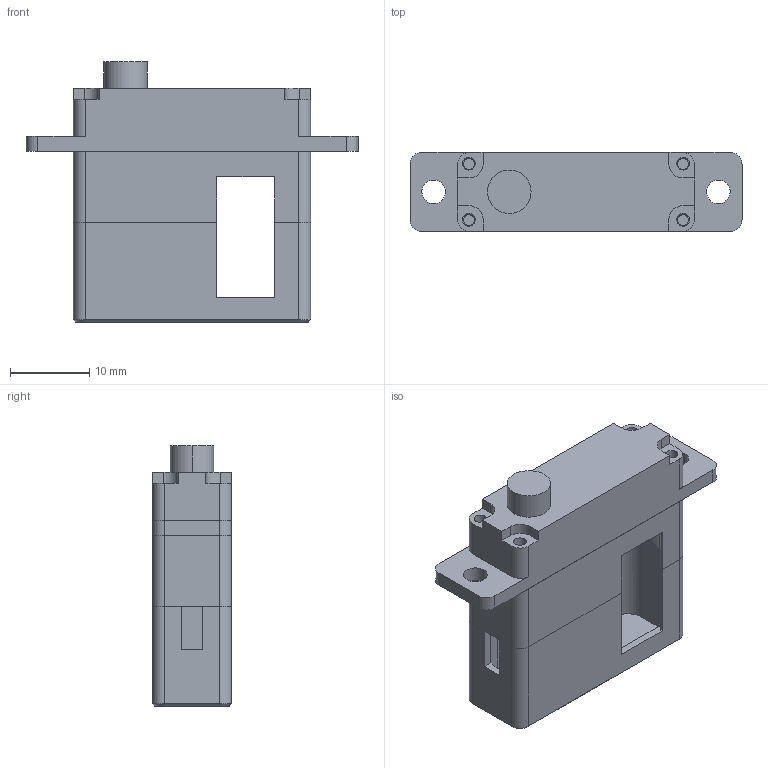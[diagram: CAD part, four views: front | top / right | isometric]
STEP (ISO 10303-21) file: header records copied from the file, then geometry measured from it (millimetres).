
FILE_DESCRIPTION (( 'STEP AP214' ), '1' );
FILE_NAME ('KST-X10-710_DM.STEP', '2020-11-13T00:16:40', ( '微软用户' ), ( '微软中国' ), 'SwSTEP 2.0', 'SolidWorks 2016', '' );
FILE_SCHEMA (( 'AUTOMOTIVE_DESIGN' ));
Length unit declared in the file: millimetre
Products named in the file (2): KST-X10-710_DM
Bounding box: 42 x 10 x 32.9 mm (x, y, z)
Volume: 3796.1 mm3; surface area: 6307.6 mm2
Topology: 4 solids, 4 shells, 245 faces, 688 edges, 454 vertices
Faces by surface type: plane 124, cylinder 116, cone 5
Entity records: 8167 total; most frequent: CARTESIAN_POINT 1453, DIRECTION 1451, ORIENTED_EDGE 1376, EDGE_CURVE 688, AXIS2_PLACEMENT_3D 524, VERTEX_POINT 454, VECTOR 403, LINE 403
